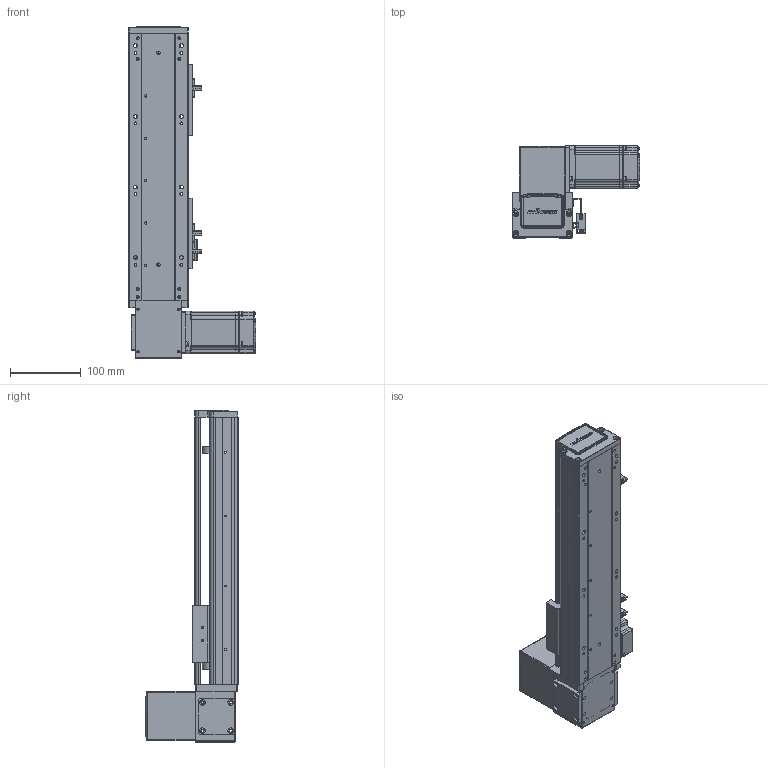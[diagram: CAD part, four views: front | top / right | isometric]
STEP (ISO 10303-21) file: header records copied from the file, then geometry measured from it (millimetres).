
FILE_DESCRIPTION (( 'STEP AP203' ), '1' );
FILE_NAME ('RY80-T-300-UR.SLDASM_200.step', '2021-03-01T02:25:35', ( '盈信电脑' ), ( '东莞市道滘镇水果街19号' ), 'SwSTEP 2.0', 'SolidWorks 2012', '' );
FILE_SCHEMA (( 'CONFIG_CONTROL_DESIGN' ));
Length unit declared in the file: millimetre
Products named in the file (20): RY80-T-300-UR.SLDASM_200; RY80-T-M4蹟翐2; RY80-T肮祭謫奻殏俋欶; RY80-T萇儂假蚾啣; 1; 滅袉蝶18-10; RY100-T粣創揤踡裔; RY80-T-上下折同步轮盖板; RY80-T翋肮祭謫裔啣; RY80-T肮祭湍揤輸2; RY80-T肮祭湍揤輸1; RY80-T粣創揤踡輸; 覜茼ん672; 672嫖萇羲壽假蚾釱; RY80-T-翋肮祭謫釱; RY80俋离覜茼え; RY80-T-300-UR倰第菁釱_200; RY80-T綴裔啣; RY80-T肮祭謫臏賑輸; RY80-T-300-UR倰第奻裔啣_200
Assembly tree (23 placements, depth 2):
  RY80-T-300-UR.SLDASM_200
    RY80-T-300-UR倰第菁釱_200
    RY80-T肮祭謫臏賑輸
    RY80-T-300-UR倰第奻裔啣_200
    RY80-T綴裔啣
    672嫖萇羲壽假蚾釱  x2
    覜茼ん672  x3
    RY80俋离覜茼え
    RY80-T-翋肮祭謫釱
    RY80-T肮祭湍揤輸1
    RY80-T肮祭湍揤輸2
    RY80-T粣創揤踡輸
    滅袉蝶18-10  x2
    RY100-T粣創揤踡裔
    RY80-T翋肮祭謫裔啣
    RY80-T-上下折同步轮盖板
    1
    RY80-T肮祭謫奻殏俋欶
    RY80-T-M4蹟翐2
    RY80-T萇儂假蚾啣
Bounding box: 180 x 130.5 x 470 mm (x, y, z)
Volume: 1155891.2 mm3; surface area: 449458.2 mm2
Topology: 23 solids, 23 shells, 2353 faces, 6443 edges, 4184 vertices
Faces by surface type: plane 1315, cylinder 845, cone 137, bspline 56
Entity records: 73586 total; most frequent: CARTESIAN_POINT 16878, ORIENTED_EDGE 11530, DIRECTION 11008, EDGE_CURVE 5765, VERTEX_POINT 3788, VECTOR 3684, LINE 3684, AXIS2_PLACEMENT_3D 3662
